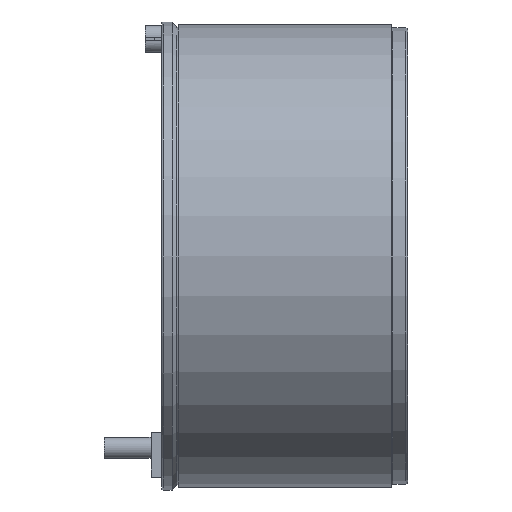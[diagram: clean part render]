
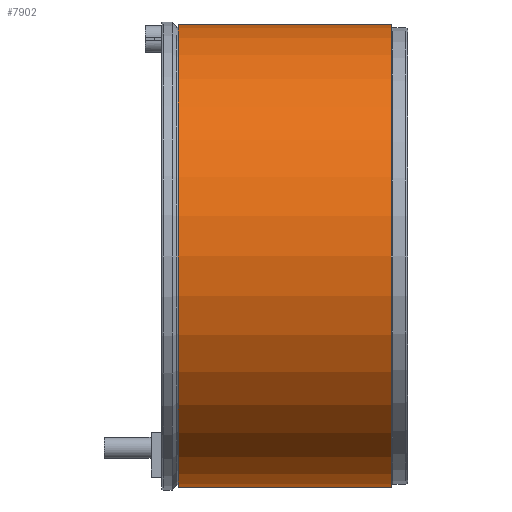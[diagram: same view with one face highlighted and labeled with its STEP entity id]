
A CAD part, left-side view. The second image highlights one B-rep face of the part: STEP entity #7902.
In plain terms, the highlighted cylindrical face has radius 197.5 mm (diameter 395 mm), a partial arc.
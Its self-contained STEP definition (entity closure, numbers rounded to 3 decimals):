
#416 = VERTEX_POINT ( 'NONE', #12923 ) ;
#1255 = CARTESIAN_POINT ( 'NONE',  ( 0., 196., 0. ) ) ;
#1969 = CIRCLE ( 'NONE', #8587, 197.5 ) ;
#1983 = ORIENTED_EDGE ( 'NONE', *, *, #6466, .T. ) ;
#2151 = EDGE_CURVE ( 'NONE', #5895, #416, #14344, .T. ) ;
#2479 = VERTEX_POINT ( 'NONE', #13910 ) ;
#2541 = CARTESIAN_POINT ( 'NONE',  ( 0., 0., -197.5 ) ) ;
#2574 = AXIS2_PLACEMENT_3D ( 'NONE', #1255, #9163, #10332 ) ;
#3897 = VECTOR ( 'NONE', #8727, 1000. ) ;
#4389 = DIRECTION ( 'NONE',  ( 0., -1., 0. ) ) ;
#4584 = VECTOR ( 'NONE', #6206, 1000. ) ;
#5389 = EDGE_CURVE ( 'NONE', #5895, #9651, #10988, .T. ) ;
#5450 = DIRECTION ( 'NONE',  ( 0., 0., -1. ) ) ;
#5895 = VERTEX_POINT ( 'NONE', #13789 ) ;
#6206 = DIRECTION ( 'NONE',  ( 0., -1., 0. ) ) ;
#6466 = EDGE_CURVE ( 'NONE', #9651, #2479, #13733, .T. ) ;
#6597 = ORIENTED_EDGE ( 'NONE', *, *, #5389, .T. ) ;
#6758 = CARTESIAN_POINT ( 'NONE',  ( 0., 0., 0. ) ) ;
#7483 = CARTESIAN_POINT ( 'NONE',  ( 0., 0., 197.5 ) ) ;
#7896 = DIRECTION ( 'NONE',  ( 0., -1., 0. ) ) ;
#7902 = ADVANCED_FACE ( 'NONE', ( #7928 ), #14244, .T. ) ;
#7928 = FACE_OUTER_BOUND ( 'NONE', #8655, .T. ) ;
#7942 = CARTESIAN_POINT ( 'NONE',  ( 0., 14., 0. ) ) ;
#7957 = EDGE_CURVE ( 'NONE', #416, #2479, #1969, .T. ) ;
#8587 = AXIS2_PLACEMENT_3D ( 'NONE', #7942, #4389, #5450 ) ;
#8655 = EDGE_LOOP ( 'NONE', ( #13551, #6597, #1983, #10213 ) ) ;
#8727 = DIRECTION ( 'NONE',  ( 0., -1., 0. ) ) ;
#9163 = DIRECTION ( 'NONE',  ( 0., -1., 0. ) ) ;
#9651 = VERTEX_POINT ( 'NONE', #13508 ) ;
#10056 = DIRECTION ( 'NONE',  ( 0., 0., -1. ) ) ;
#10213 = ORIENTED_EDGE ( 'NONE', *, *, #7957, .F. ) ;
#10332 = DIRECTION ( 'NONE',  ( 0., 0., -1. ) ) ;
#10416 = AXIS2_PLACEMENT_3D ( 'NONE', #6758, #7896, #10056 ) ;
#10988 = CIRCLE ( 'NONE', #2574, 197.5 ) ;
#12923 = CARTESIAN_POINT ( 'NONE',  ( 0., 14., 197.5 ) ) ;
#13508 = CARTESIAN_POINT ( 'NONE',  ( 0., 196., -197.5 ) ) ;
#13551 = ORIENTED_EDGE ( 'NONE', *, *, #2151, .F. ) ;
#13733 = LINE ( 'NONE', #2541, #4584 ) ;
#13789 = CARTESIAN_POINT ( 'NONE',  ( 0., 196., 197.5 ) ) ;
#13910 = CARTESIAN_POINT ( 'NONE',  ( 0., 14., -197.5 ) ) ;
#14244 = CYLINDRICAL_SURFACE ( 'NONE', #10416, 197.5 ) ;
#14344 = LINE ( 'NONE', #7483, #3897 ) ;
